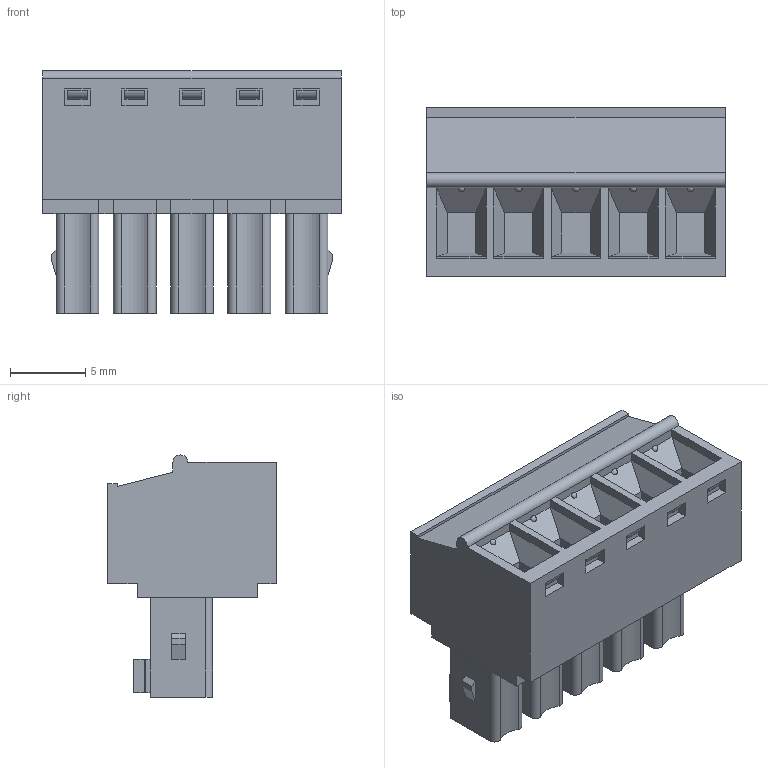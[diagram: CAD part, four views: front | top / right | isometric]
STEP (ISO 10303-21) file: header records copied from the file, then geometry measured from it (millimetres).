
FILE_DESCRIPTION(('FreeCAD Model'),'2;1');
FILE_NAME('Open CASCADE Shape Model','2023-05-24T15:00:43',('Author'),( ''),'Open CASCADE STEP processor 7.6','FreeCAD','Unknown');
FILE_SCHEMA(('AUTOMOTIVE_DESIGN { 1 0 10303 214 1 1 1 1 }'));
Length unit declared in the file: millimetre
Products named in the file (1): BR7F2-05
Bounding box: 19.84 x 11.2 x 16.1 mm (x, y, z)
Volume: 1973.4 mm3; surface area: 1958.1 mm2
Topology: 1 solids, 1 shells, 463 faces, 1124 edges, 700 vertices
Faces by surface type: plane 282, cylinder 101, cone 50, torus 20, sphere 10
Entity records: 30139 total; most frequent: CARTESIAN_POINT 7311, DIRECTION 4367, LINE 2669, VECTOR 2669, ORIENTED_EDGE 2228, PCURVE 2228, DEFINITIONAL_REPRESENTATION 2228, EDGE_CURVE 1114
